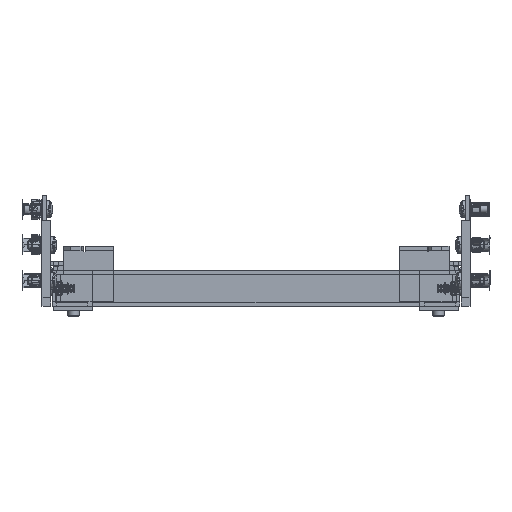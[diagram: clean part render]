
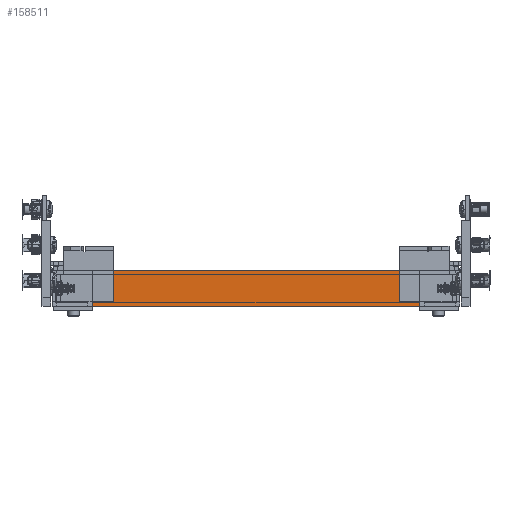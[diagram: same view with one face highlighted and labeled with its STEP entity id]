
A CAD part, front view. The second image highlights one B-rep face of the part: STEP entity #158511.
In plain terms, the highlighted planar face has unit normal (0, -1, 0) as drawn and (-1, 0, 0) by its records, which use the part's own axes.
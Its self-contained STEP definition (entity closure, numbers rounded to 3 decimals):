
#5634 = ORIENTED_EDGE ( 'NONE', *, *, #8559, .T. ) ;
#8559 = EDGE_CURVE ( 'NONE', #78873, #48354, #83703, .T. ) ;
#12783 = EDGE_CURVE ( 'NONE', #134729, #50708, #115157, .T. ) ;
#14302 = CARTESIAN_POINT ( 'NONE',  ( -1041.51, -140.5, 0. ) ) ;
#14524 = LINE ( 'NONE', #47561, #62063 ) ;
#17453 = ORIENTED_EDGE ( 'NONE', *, *, #41208, .F. ) ;
#20202 = DIRECTION ( 'NONE',  ( 0., -1., 0. ) ) ;
#21313 = DIRECTION ( 'NONE',  ( 0., 0., -1. ) ) ;
#22338 = EDGE_LOOP ( 'NONE', ( #174199, #173350, #154713, #114332, #55744, #163771, #5634, #17453 ) ) ;
#24254 = CARTESIAN_POINT ( 'NONE',  ( -1041.51, 114.5, 2.5 ) ) ;
#33243 = CARTESIAN_POINT ( 'NONE',  ( -1041.51, -114.5, 0. ) ) ;
#39925 = VECTOR ( 'NONE', #20202, 1000. ) ;
#41208 = EDGE_CURVE ( 'NONE', #134729, #48354, #14524, .T. ) ;
#42449 = DIRECTION ( 'NONE',  ( 0., 0., -1. ) ) ;
#47561 = CARTESIAN_POINT ( 'NONE',  ( -1041.51, -114.5, 2.5 ) ) ;
#47590 = VECTOR ( 'NONE', #156634, 1000. ) ;
#48354 = VERTEX_POINT ( 'NONE', #33243 ) ;
#48790 = VECTOR ( 'NONE', #125508, 1000. ) ;
#50708 = VERTEX_POINT ( 'NONE', #81684 ) ;
#51530 = CARTESIAN_POINT ( 'NONE',  ( -1041.51, -114.5, 25. ) ) ;
#55744 = ORIENTED_EDGE ( 'NONE', *, *, #113901, .T. ) ;
#56119 = LINE ( 'NONE', #70508, #48790 ) ;
#58093 = CARTESIAN_POINT ( 'NONE',  ( -1041.51, 114.5, 25. ) ) ;
#59878 = CARTESIAN_POINT ( 'NONE',  ( -1041.51, 114.5, 25. ) ) ;
#62063 = VECTOR ( 'NONE', #42449, 1000. ) ;
#63491 = CARTESIAN_POINT ( 'NONE',  ( -1041.51, 114.5, 2.5 ) ) ;
#66355 = EDGE_CURVE ( 'NONE', #50708, #128317, #98728, .T. ) ;
#67465 = DIRECTION ( 'NONE',  ( 0., 0., 1. ) ) ;
#67522 = DIRECTION ( 'NONE',  ( 0., -1., 0. ) ) ;
#70508 = CARTESIAN_POINT ( 'NONE',  ( -1041.51, 114.5, 3.1 ) ) ;
#72297 = VERTEX_POINT ( 'NONE', #95511 ) ;
#78873 = VERTEX_POINT ( 'NONE', #102545 ) ;
#79237 = DIRECTION ( 'NONE',  ( 0., 0., 1. ) ) ;
#80586 = DIRECTION ( 'NONE',  ( 0., 0., -1. ) ) ;
#81684 = CARTESIAN_POINT ( 'NONE',  ( -1041.51, -114.5, 21.9 ) ) ;
#83703 = LINE ( 'NONE', #14302, #124567 ) ;
#85791 = VECTOR ( 'NONE', #67465, 1000. ) ;
#86310 = EDGE_CURVE ( 'NONE', #122741, #78873, #56119, .T. ) ;
#95511 = CARTESIAN_POINT ( 'NONE',  ( -1041.51, 114.5, 21.9 ) ) ;
#98728 = LINE ( 'NONE', #148648, #85791 ) ;
#101640 = CARTESIAN_POINT ( 'NONE',  ( -1041.51, -114.5, 2.5 ) ) ;
#102545 = CARTESIAN_POINT ( 'NONE',  ( -1041.51, 114.5, 0. ) ) ;
#113901 = EDGE_CURVE ( 'NONE', #72297, #122741, #134679, .T. ) ;
#114332 = ORIENTED_EDGE ( 'NONE', *, *, #135959, .F. ) ;
#115157 = LINE ( 'NONE', #101640, #47590 ) ;
#122741 = VERTEX_POINT ( 'NONE', #127472 ) ;
#124567 = VECTOR ( 'NONE', #67522, 1000. ) ;
#125508 = DIRECTION ( 'NONE',  ( 0., 0., -1. ) ) ;
#127472 = CARTESIAN_POINT ( 'NONE',  ( -1041.51, 114.5, 3.1 ) ) ;
#128317 = VERTEX_POINT ( 'NONE', #51530 ) ;
#130150 = LINE ( 'NONE', #59878, #39925 ) ;
#130391 = DIRECTION ( 'NONE',  ( 1., 0., 0. ) ) ;
#134679 = LINE ( 'NONE', #63491, #137515 ) ;
#134729 = VERTEX_POINT ( 'NONE', #150421 ) ;
#135959 = EDGE_CURVE ( 'NONE', #72297, #157644, #147780, .T. ) ;
#137515 = VECTOR ( 'NONE', #80586, 1000. ) ;
#143060 = PLANE ( 'NONE',  #163339 ) ;
#145726 = FACE_OUTER_BOUND ( 'NONE', #22338, .T. ) ;
#147780 = LINE ( 'NONE', #24254, #175019 ) ;
#148648 = CARTESIAN_POINT ( 'NONE',  ( -1041.51, -114.5, 21.9 ) ) ;
#150421 = CARTESIAN_POINT ( 'NONE',  ( -1041.51, -114.5, 3.1 ) ) ;
#154713 = ORIENTED_EDGE ( 'NONE', *, *, #177981, .F. ) ;
#156634 = DIRECTION ( 'NONE',  ( 0., 0., 1. ) ) ;
#157644 = VERTEX_POINT ( 'NONE', #58093 ) ;
#158511 = ADVANCED_FACE ( 'NONE', ( #145726 ), #143060, .F. ) ;
#163339 = AXIS2_PLACEMENT_3D ( 'NONE', #170965, #130391, #21313 ) ;
#163771 = ORIENTED_EDGE ( 'NONE', *, *, #86310, .T. ) ;
#170965 = CARTESIAN_POINT ( 'NONE',  ( -1041.51, 114.5, 2.5 ) ) ;
#173350 = ORIENTED_EDGE ( 'NONE', *, *, #66355, .T. ) ;
#174199 = ORIENTED_EDGE ( 'NONE', *, *, #12783, .T. ) ;
#175019 = VECTOR ( 'NONE', #79237, 1000. ) ;
#177981 = EDGE_CURVE ( 'NONE', #157644, #128317, #130150, .T. ) ;
